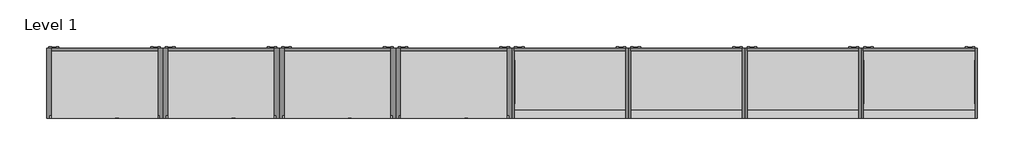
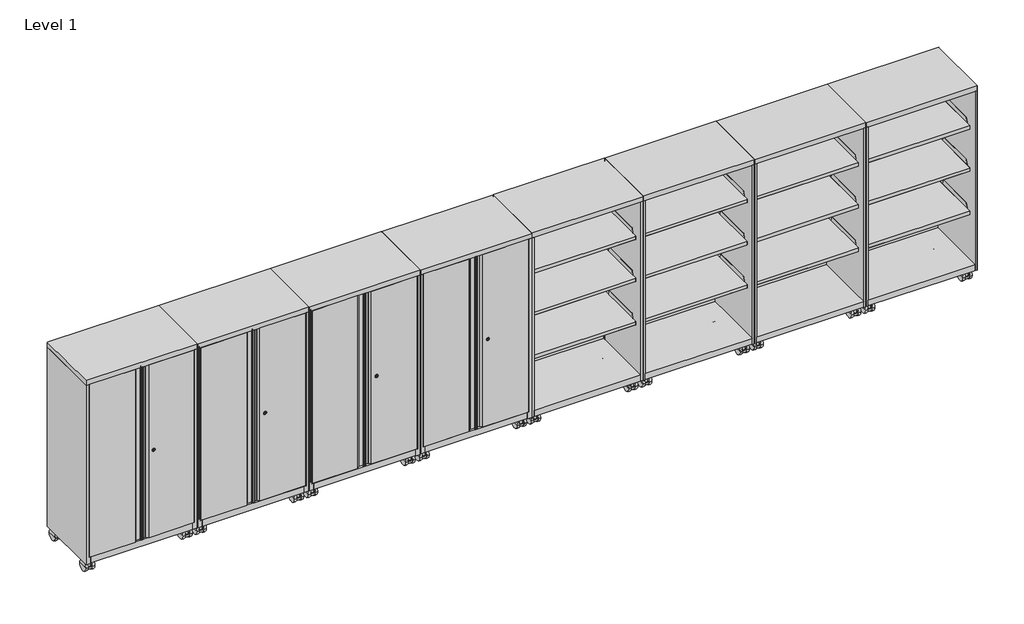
# One storey, incomplete: 8 furniture elements.
"""IFC4 building model written with IfcOpenShell, lengths in millimetres."""

from ifc_helpers import new_model, si_unit, origin, place, context, project, spatial, transform, mapped, element, save
from components import furniture_2ed382e0, furniture_d5c8ed67, furniture_dcce212d, furniture_f87ea544

model = new_model("IFC4")

# Units and contexts
model_context = context("Model", 3, world=origin())
ifc_project = project(units=[si_unit("LENGTHUNIT", "METRE", prefix="MILLI")], contexts=[model_context])

# Site, building, storey
site = spatial("IfcSite", under=ifc_project)
building = spatial("IfcBuilding", under=site)
storey = spatial("IfcBuildingStorey", under=building, Name="Level 1", Elevation=0.0)

# Furniture
placement = place(None, origin())
furniture_shape = furniture_2ed382e0(model_context)
furniture_2_shape = furniture_d5c8ed67(model_context)
element("IfcFurniture", 1, ObjectType="HON - Smartlink - Mobile Storage Cabinet with Bins : 56\" H", at=placement, inside=storey, context=model_context, shape_type="MappedRepresentation", body=[
    mapped(furniture_shape, transform((-2776.6523454, 3697.6744516, 0.0), x_axis=(1.0, 0.0, 0.0), y_axis=(0.0, 1.0, 0.0), z_axis=(0.0, 0.0, 1.0))),
    mapped(furniture_2_shape, transform((-2776.6523454, 3697.6744516, 0.0), x_axis=(1.0, 0.0, 0.0), y_axis=(0.0, 1.0, 0.0), z_axis=(0.0, 0.0, 1.0))),
])
element("IfcFurniture", 2, ObjectType="HON - Smartlink - Mobile Storage Cabinet with Bins : 56\" H", at=placement, inside=storey, context=model_context, shape_type="MappedRepresentation", body=[
    mapped(furniture_shape, transform((-2014.6523454, 3697.6744516, 0.0), x_axis=(1.0, 0.0, 0.0), y_axis=(0.0, 1.0, 0.0), z_axis=(0.0, 0.0, 1.0))),
    mapped(furniture_2_shape, transform((-2014.6523454, 3697.6744516, 0.0), x_axis=(1.0, 0.0, 0.0), y_axis=(0.0, 1.0, 0.0), z_axis=(0.0, 0.0, 1.0))),
])
element("IfcFurniture", 3, ObjectType="HON - Smartlink - Mobile Storage Cabinet with Bins : 56\" H", at=placement, inside=storey, context=model_context, shape_type="MappedRepresentation", body=[
    mapped(furniture_shape, transform((-1252.5962655, 3697.6744516, 0.0), x_axis=(1.0, 0.0, 0.0), y_axis=(0.0, 1.0, 0.0), z_axis=(0.0, 0.0, 1.0))),
    mapped(furniture_2_shape, transform((-1252.5962655, 3697.6744516, 0.0), x_axis=(1.0, 0.0, 0.0), y_axis=(0.0, 1.0, 0.0), z_axis=(0.0, 0.0, 1.0))),
])
element("IfcFurniture", 4, ObjectType="HON - Smartlink - Mobile Storage Cabinet with Bins : 56\" H", at=placement, inside=storey, context=model_context, shape_type="MappedRepresentation", body=[
    mapped(furniture_shape, transform((-490.6523454, 3697.6744516, 0.0), x_axis=(1.0, 0.0, 0.0), y_axis=(0.0, 1.0, 0.0), z_axis=(0.0, 0.0, 1.0))),
    mapped(furniture_2_shape, transform((-490.6523454, 3697.6744516, 0.0), x_axis=(1.0, 0.0, 0.0), y_axis=(0.0, 1.0, 0.0), z_axis=(0.0, 0.0, 1.0))),
])
furniture_3_shape = furniture_dcce212d(model_context)
furniture_4_shape = furniture_f87ea544(model_context)
element("IfcFurniture", 5, ObjectType="HON - Smartlink - Mobile Bookcase : 56\" H", at=placement, inside=storey, context=model_context, shape_type="MappedRepresentation", body=[
    mapped(furniture_3_shape, transform((271.3476546, 3697.6744516, 0.0), x_axis=(1.0, 0.0, 0.0), y_axis=(0.0, 1.0, 0.0), z_axis=(0.0, 0.0, 1.0))),
    mapped(furniture_4_shape, transform((271.3476546, 3697.6744516, 0.0), x_axis=(1.0, 0.0, 0.0), y_axis=(0.0, 1.0, 0.0), z_axis=(0.0, 0.0, 1.0))),
])
element("IfcFurniture", 6, ObjectType="HON - Smartlink - Mobile Bookcase : 56\" H", at=placement, inside=storey, context=model_context, shape_type="MappedRepresentation", body=[
    mapped(furniture_3_shape, transform((1033.3476546, 3697.6744516, 0.0), x_axis=(1.0, 0.0, 0.0), y_axis=(0.0, 1.0, 0.0), z_axis=(0.0, 0.0, 1.0))),
    mapped(furniture_4_shape, transform((1033.3476546, 3697.6744516, 0.0), x_axis=(1.0, 0.0, 0.0), y_axis=(0.0, 1.0, 0.0), z_axis=(0.0, 0.0, 1.0))),
])
element("IfcFurniture", 7, ObjectType="HON - Smartlink - Mobile Bookcase : 56\" H", at=placement, inside=storey, context=model_context, shape_type="MappedRepresentation", body=[
    mapped(furniture_3_shape, transform((1795.4037345, 3697.6744516, 0.0), x_axis=(1.0, 0.0, 0.0), y_axis=(0.0, 1.0, 0.0), z_axis=(0.0, 0.0, 1.0))),
    mapped(furniture_4_shape, transform((1795.4037345, 3697.6744516, 0.0), x_axis=(1.0, 0.0, 0.0), y_axis=(0.0, 1.0, 0.0), z_axis=(0.0, 0.0, 1.0))),
])
element("IfcFurniture", 8, ObjectType="HON - Smartlink - Mobile Bookcase : 56\" H", at=placement, inside=storey, context=model_context, shape_type="MappedRepresentation", body=[
    mapped(furniture_3_shape, transform((2557.4037345, 3697.6744516, 0.0), x_axis=(1.0, 0.0, 0.0), y_axis=(0.0, 1.0, 0.0), z_axis=(0.0, 0.0, 1.0))),
    mapped(furniture_4_shape, transform((2557.4037345, 3697.6744516, 0.0), x_axis=(1.0, 0.0, 0.0), y_axis=(0.0, 1.0, 0.0), z_axis=(0.0, 0.0, 1.0))),
])

save(model, "model.ifc")
